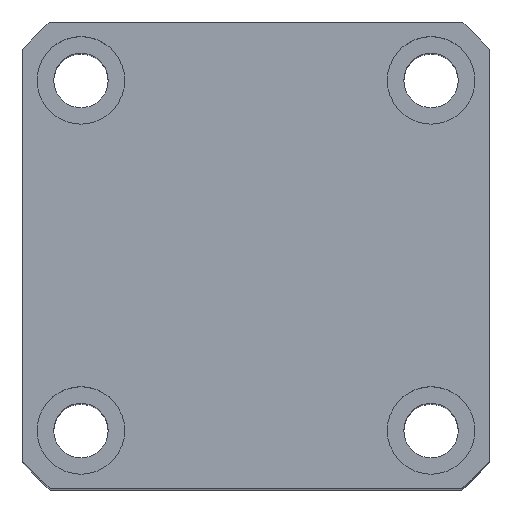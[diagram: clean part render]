
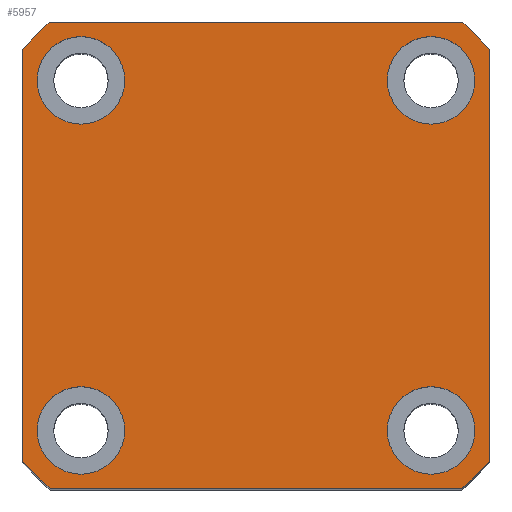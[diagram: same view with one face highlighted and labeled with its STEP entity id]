
A CAD part, top view. The second image highlights one B-rep face of the part: STEP entity #5957.
In plain terms, the highlighted planar face has unit normal (0, 0, 1).
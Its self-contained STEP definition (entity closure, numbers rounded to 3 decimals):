
#2937=PLANE('',#11896);
#3235=LINE('',#16365,#4110);
#3239=LINE('',#16643,#4114);
#3243=LINE('',#16652,#4118);
#3247=LINE('',#16661,#4122);
#4110=VECTOR('',#12354,1.);
#4114=VECTOR('',#12472,1.);
#4118=VECTOR('',#12478,1.);
#4122=VECTOR('',#12484,1.);
#5957=ADVANCED_FACE('',(#6514,#6515,#6516,#6517,#6518),#2937,.T.);
#6514=FACE_BOUND('',#6701,.T.);
#6515=FACE_BOUND('',#6702,.T.);
#6516=FACE_BOUND('',#6703,.T.);
#6517=FACE_BOUND('',#6704,.T.);
#6518=FACE_BOUND('',#6705,.T.);
#6701=EDGE_LOOP('',(#7361));
#6702=EDGE_LOOP('',(#7362));
#6703=EDGE_LOOP('',(#7363));
#6704=EDGE_LOOP('',(#7364));
#6705=EDGE_LOOP('',(#7365,#7366,#7367,#7368,#7369,#7370,#7371,#7372));
#7361=ORIENTED_EDGE('',*,*,#10548,.F.);
#7362=ORIENTED_EDGE('',*,*,#10550,.F.);
#7363=ORIENTED_EDGE('',*,*,#10552,.F.);
#7364=ORIENTED_EDGE('',*,*,#10554,.F.);
#7365=ORIENTED_EDGE('',*,*,#10525,.T.);
#7366=ORIENTED_EDGE('',*,*,#10580,.T.);
#7367=ORIENTED_EDGE('',*,*,#10569,.T.);
#7368=ORIENTED_EDGE('',*,*,#10581,.T.);
#7369=ORIENTED_EDGE('',*,*,#10573,.T.);
#7370=ORIENTED_EDGE('',*,*,#10582,.T.);
#7371=ORIENTED_EDGE('',*,*,#10577,.T.);
#7372=ORIENTED_EDGE('',*,*,#10583,.T.);
#9672=VERTEX_POINT('',#16363);
#9674=VERTEX_POINT('',#16366);
#9696=VERTEX_POINT('',#16592);
#9698=VERTEX_POINT('',#16597);
#9700=VERTEX_POINT('',#16602);
#9702=VERTEX_POINT('',#16607);
#9715=VERTEX_POINT('',#16641);
#9717=VERTEX_POINT('',#16644);
#9719=VERTEX_POINT('',#16650);
#9721=VERTEX_POINT('',#16653);
#9723=VERTEX_POINT('',#16659);
#9725=VERTEX_POINT('',#16662);
#10525=EDGE_CURVE('',#9674,#9672,#3235,.T.);
#10548=EDGE_CURVE('',#9696,#9696,#11727,.T.);
#10550=EDGE_CURVE('',#9698,#9698,#11729,.T.);
#10552=EDGE_CURVE('',#9700,#9700,#11731,.T.);
#10554=EDGE_CURVE('',#9702,#9702,#11733,.T.);
#10569=EDGE_CURVE('',#9717,#9715,#3239,.T.);
#10573=EDGE_CURVE('',#9721,#9719,#3243,.T.);
#10577=EDGE_CURVE('',#9725,#9723,#3247,.T.);
#10580=EDGE_CURVE('',#9672,#9717,#11747,.T.);
#10581=EDGE_CURVE('',#9715,#9721,#11748,.T.);
#10582=EDGE_CURVE('',#9719,#9725,#11749,.T.);
#10583=EDGE_CURVE('',#9723,#9674,#11750,.T.);
#11727=CIRCLE('',#11859,4.5);
#11729=CIRCLE('',#11862,4.5);
#11731=CIRCLE('',#11865,4.5);
#11733=CIRCLE('',#11868,4.5);
#11747=CIRCLE('',#11892,32.);
#11748=CIRCLE('',#11893,32.);
#11749=CIRCLE('',#11894,32.);
#11750=CIRCLE('',#11895,32.);
#11859=AXIS2_PLACEMENT_3D('',#16591,#12411,#12412);
#11862=AXIS2_PLACEMENT_3D('',#16596,#12417,#12418);
#11865=AXIS2_PLACEMENT_3D('',#16601,#12423,#12424);
#11868=AXIS2_PLACEMENT_3D('',#16606,#12429,#12430);
#11892=AXIS2_PLACEMENT_3D('',#16667,#12489,#12490);
#11893=AXIS2_PLACEMENT_3D('',#16668,#12491,#12492);
#11894=AXIS2_PLACEMENT_3D('',#16669,#12493,#12494);
#11895=AXIS2_PLACEMENT_3D('',#16670,#12495,#12496);
#11896=AXIS2_PLACEMENT_3D('',#16671,#12497,#12498);
#12354=DIRECTION('',(0.,1.,0.));
#12411=DIRECTION('',(0.,0.,1.));
#12412=DIRECTION('',(1.,0.,0.));
#12417=DIRECTION('',(0.,0.,1.));
#12418=DIRECTION('',(1.,0.,0.));
#12423=DIRECTION('',(0.,0.,1.));
#12424=DIRECTION('',(1.,0.,0.));
#12429=DIRECTION('',(0.,0.,1.));
#12430=DIRECTION('',(1.,0.,0.));
#12472=DIRECTION('',(-1.,0.,0.));
#12478=DIRECTION('',(0.,-1.,0.));
#12484=DIRECTION('',(1.,0.,0.));
#12489=DIRECTION('',(0.,0.,1.));
#12490=DIRECTION('',(1.,0.,0.));
#12491=DIRECTION('',(0.,0.,1.));
#12492=DIRECTION('',(1.,0.,0.));
#12493=DIRECTION('',(0.,0.,1.));
#12494=DIRECTION('',(1.,0.,0.));
#12495=DIRECTION('',(0.,0.,1.));
#12496=DIRECTION('',(1.,0.,0.));
#12497=DIRECTION('',(0.,0.,1.));
#12498=DIRECTION('',(-1.,0.,0.));
#16363=CARTESIAN_POINT('',(-95.476,37.568,111.81));
#16365=CARTESIAN_POINT('',(-95.476,40.402,111.81));
#16366=CARTESIAN_POINT('',(-95.476,-4.764,111.81));
#16591=CARTESIAN_POINT('',(-101.476,-1.598,111.81));
#16592=CARTESIAN_POINT('',(-96.976,-1.598,111.81));
#16596=CARTESIAN_POINT('',(-137.476,-1.598,111.81));
#16597=CARTESIAN_POINT('',(-132.976,-1.598,111.81));
#16601=CARTESIAN_POINT('',(-101.476,34.402,111.81));
#16602=CARTESIAN_POINT('',(-96.976,34.402,111.81));
#16606=CARTESIAN_POINT('',(-137.476,34.402,111.81));
#16607=CARTESIAN_POINT('',(-132.976,34.402,111.81));
#16641=CARTESIAN_POINT('',(-140.642,40.402,111.81));
#16643=CARTESIAN_POINT('',(-143.476,40.402,111.81));
#16644=CARTESIAN_POINT('',(-98.31,40.402,111.81));
#16650=CARTESIAN_POINT('',(-143.476,-4.764,111.81));
#16652=CARTESIAN_POINT('',(-143.476,40.402,111.81));
#16653=CARTESIAN_POINT('',(-143.476,37.568,111.81));
#16659=CARTESIAN_POINT('',(-98.31,-7.598,111.81));
#16661=CARTESIAN_POINT('',(-143.476,-7.598,111.81));
#16662=CARTESIAN_POINT('',(-140.642,-7.598,111.81));
#16667=CARTESIAN_POINT('',(-119.476,16.402,111.81));
#16668=CARTESIAN_POINT('',(-119.476,16.402,111.81));
#16669=CARTESIAN_POINT('',(-119.476,16.402,111.81));
#16670=CARTESIAN_POINT('',(-119.476,16.402,111.81));
#16671=CARTESIAN_POINT('',(-119.476,16.402,111.81));
